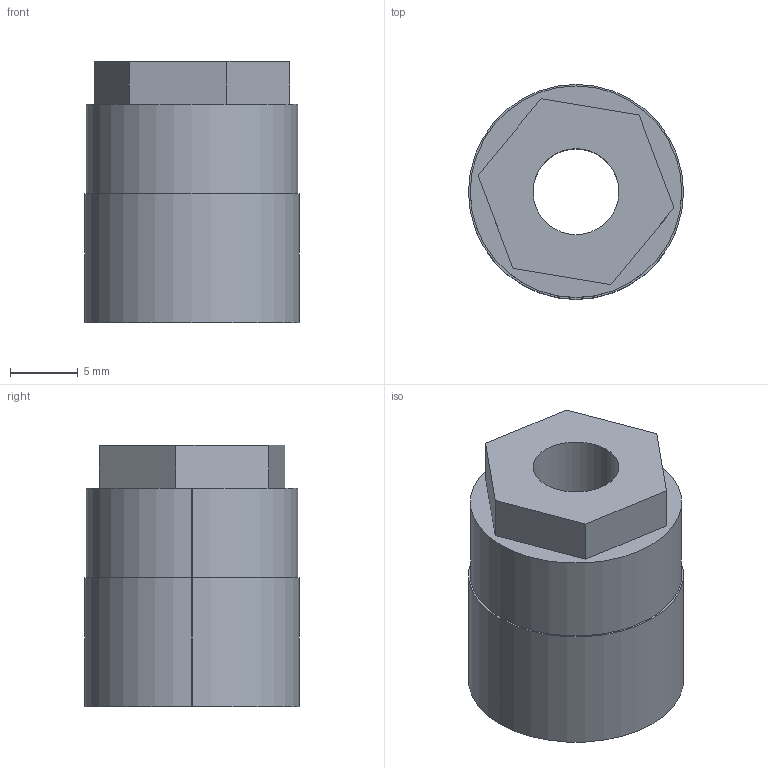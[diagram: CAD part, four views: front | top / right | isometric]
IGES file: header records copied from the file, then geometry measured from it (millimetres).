
Global section: file name: C:\Documents and Settings\Administrator\Desktop\Transfer Temp\trantorque0250.igs; native system: AutoDesk Inventor R2.0 ; preprocessor: AutoDesk Inventor Iges Exporter R2.0; author: No Author specified; organization: No Organization specified; date: 20011226.200445; units: inch
Bounding box: 15.88 x 15.88 x 19.28 mm (x, y, z)
Surface area: 1654.6 mm2 (no closed solid volume)
Topology: 0 solids, 0 shells, 16 faces, 72 edges, 72 vertices
Faces by surface type: bspline 12, revolution 4
